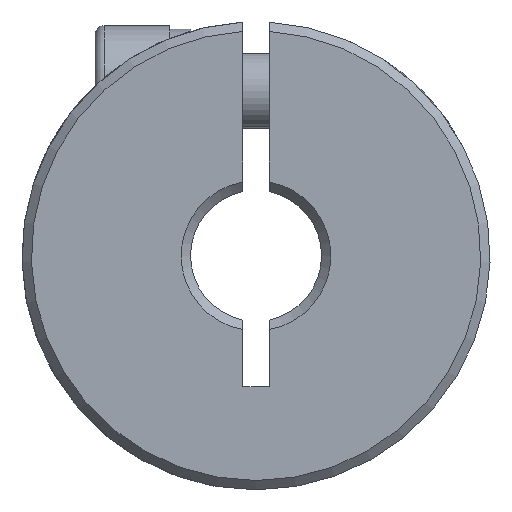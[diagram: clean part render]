
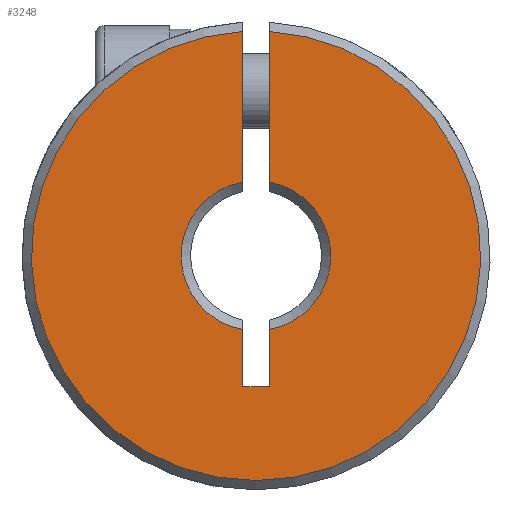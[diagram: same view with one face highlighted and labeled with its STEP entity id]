
A CAD part, front view. The second image highlights one B-rep face of the part: STEP entity #3248.
In plain terms, the highlighted planar face has unit normal (0, -1, 0).
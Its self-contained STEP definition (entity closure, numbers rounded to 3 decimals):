
#75 = LINE ( 'NONE', #1248, #715 ) ;
#141 = DIRECTION ( 'NONE',  ( 0., 0., 1. ) ) ;
#152 = CARTESIAN_POINT ( 'NONE',  ( -0.7, 0.25, -7. ) ) ;
#153 = ORIENTED_EDGE ( 'NONE', *, *, #3063, .F. ) ;
#185 = DIRECTION ( 'NONE',  ( 0., 0., 1. ) ) ;
#208 = CIRCLE ( 'NONE', #1408, 4. ) ;
#233 = VERTEX_POINT ( 'NONE', #339 ) ;
#339 = CARTESIAN_POINT ( 'NONE',  ( -0.7, 0.25, 11.98 ) ) ;
#388 = DIRECTION ( 'NONE',  ( 0., 0., 1. ) ) ;
#401 = CARTESIAN_POINT ( 'NONE',  ( 0.7, 0.25, -7. ) ) ;
#440 = DIRECTION ( 'NONE',  ( 0., 0., -1. ) ) ;
#468 = CARTESIAN_POINT ( 'NONE',  ( 0.7, 0.25, -3.938 ) ) ;
#574 = CARTESIAN_POINT ( 'NONE',  ( 0.7, 0.25, 3.938 ) ) ;
#652 = DIRECTION ( 'NONE',  ( 0., 1., 0. ) ) ;
#656 = CARTESIAN_POINT ( 'NONE',  ( -0.7, 0.25, 3.938 ) ) ;
#681 = CARTESIAN_POINT ( 'NONE',  ( -0.7, 0.25, -7. ) ) ;
#715 = VECTOR ( 'NONE', #388, 1000. ) ;
#828 = PLANE ( 'NONE',  #1632 ) ;
#837 = AXIS2_PLACEMENT_3D ( 'NONE', #1372, #2710, #3222 ) ;
#850 = DIRECTION ( 'NONE',  ( 0., 1., 0. ) ) ;
#883 = LINE ( 'NONE', #681, #1285 ) ;
#895 = VERTEX_POINT ( 'NONE', #574 ) ;
#947 = VERTEX_POINT ( 'NONE', #401 ) ;
#1113 = CARTESIAN_POINT ( 'NONE',  ( 12.5, 0.25, -50. ) ) ;
#1168 = DIRECTION ( 'NONE',  ( 0., 0., -1. ) ) ;
#1248 = CARTESIAN_POINT ( 'NONE',  ( 0.7, 0.25, -7. ) ) ;
#1276 = EDGE_CURVE ( 'NONE', #2139, #3071, #3310, .T. ) ;
#1285 = VECTOR ( 'NONE', #1168, 1000. ) ;
#1368 = VERTEX_POINT ( 'NONE', #3228 ) ;
#1372 = CARTESIAN_POINT ( 'NONE',  ( 0., 0.25, 0. ) ) ;
#1376 = DIRECTION ( 'NONE',  ( 0., 0., 1. ) ) ;
#1379 = DIRECTION ( 'NONE',  ( 0., 0., 1. ) ) ;
#1380 = LINE ( 'NONE', #152, #3206 ) ;
#1408 = AXIS2_PLACEMENT_3D ( 'NONE', #1987, #652, #141 ) ;
#1452 = EDGE_LOOP ( 'NONE', ( #2193, #1907, #153, #2007, #1939, #2084, #3062, #2311 ) ) ;
#1489 = EDGE_CURVE ( 'NONE', #233, #3071, #1380, .T. ) ;
#1526 = VERTEX_POINT ( 'NONE', #468 ) ;
#1614 = CARTESIAN_POINT ( 'NONE',  ( 0.7, 0.25, -7. ) ) ;
#1632 = AXIS2_PLACEMENT_3D ( 'NONE', #1113, #2073, #185 ) ;
#1793 = EDGE_CURVE ( 'NONE', #895, #1368, #2835, .T. ) ;
#1907 = ORIENTED_EDGE ( 'NONE', *, *, #2093, .T. ) ;
#1939 = ORIENTED_EDGE ( 'NONE', *, *, #2707, .F. ) ;
#1946 = VERTEX_POINT ( 'NONE', #3281 ) ;
#1960 = VECTOR ( 'NONE', #1376, 1000. ) ;
#1987 = CARTESIAN_POINT ( 'NONE',  ( 0., 0.25, 0. ) ) ;
#2007 = ORIENTED_EDGE ( 'NONE', *, *, #3424, .F. ) ;
#2073 = DIRECTION ( 'NONE',  ( 0., 1., 0. ) ) ;
#2084 = ORIENTED_EDGE ( 'NONE', *, *, #1276, .T. ) ;
#2093 = EDGE_CURVE ( 'NONE', #895, #1526, #208, .T. ) ;
#2135 = CARTESIAN_POINT ( 'NONE',  ( 0.7, 0.25, -7. ) ) ;
#2139 = VERTEX_POINT ( 'NONE', #2275 ) ;
#2162 = CARTESIAN_POINT ( 'NONE',  ( 0., 0.25, 0. ) ) ;
#2193 = ORIENTED_EDGE ( 'NONE', *, *, #1793, .F. ) ;
#2275 = CARTESIAN_POINT ( 'NONE',  ( -0.7, 0.25, -3.938 ) ) ;
#2279 = VECTOR ( 'NONE', #3476, 1000. ) ;
#2311 = ORIENTED_EDGE ( 'NONE', *, *, #2909, .T. ) ;
#2417 = FACE_OUTER_BOUND ( 'NONE', #1452, .T. ) ;
#2529 = AXIS2_PLACEMENT_3D ( 'NONE', #2162, #850, #1379 ) ;
#2707 = EDGE_CURVE ( 'NONE', #2139, #1946, #883, .T. ) ;
#2710 = DIRECTION ( 'NONE',  ( 0., -1., 0. ) ) ;
#2835 = LINE ( 'NONE', #2135, #1960 ) ;
#2909 = EDGE_CURVE ( 'NONE', #233, #1368, #2961, .T. ) ;
#2961 = CIRCLE ( 'NONE', #837, 12. ) ;
#3062 = ORIENTED_EDGE ( 'NONE', *, *, #1489, .F. ) ;
#3063 = EDGE_CURVE ( 'NONE', #947, #1526, #75, .T. ) ;
#3071 = VERTEX_POINT ( 'NONE', #656 ) ;
#3206 = VECTOR ( 'NONE', #440, 1000. ) ;
#3222 = DIRECTION ( 'NONE',  ( 0., 0., 1. ) ) ;
#3228 = CARTESIAN_POINT ( 'NONE',  ( 0.7, 0.25, 11.98 ) ) ;
#3248 = ADVANCED_FACE ( 'NONE', ( #2417 ), #828, .F. ) ;
#3281 = CARTESIAN_POINT ( 'NONE',  ( -0.7, 0.25, -7. ) ) ;
#3310 = CIRCLE ( 'NONE', #2529, 4. ) ;
#3375 = LINE ( 'NONE', #1614, #2279 ) ;
#3424 = EDGE_CURVE ( 'NONE', #1946, #947, #3375, .T. ) ;
#3476 = DIRECTION ( 'NONE',  ( 1., 0., 0. ) ) ;
